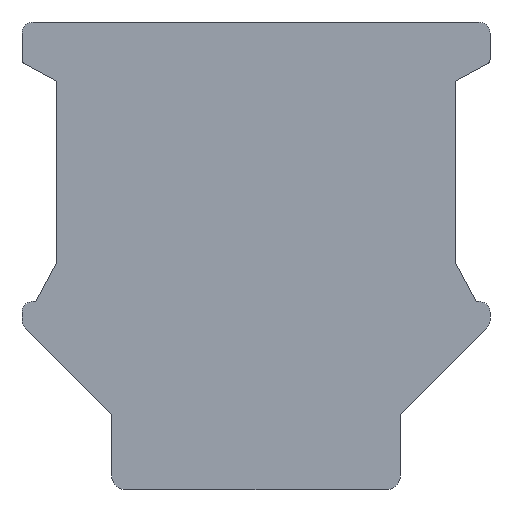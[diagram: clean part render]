
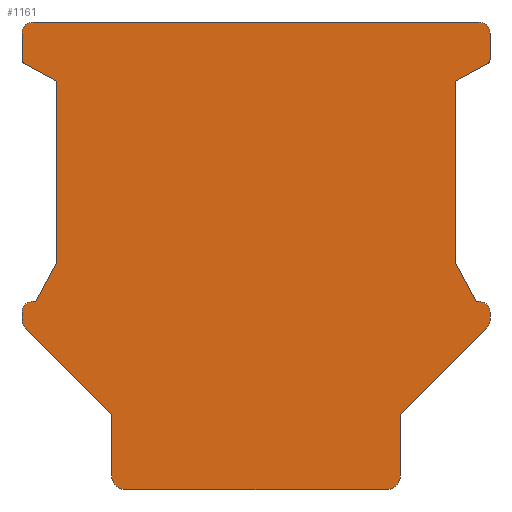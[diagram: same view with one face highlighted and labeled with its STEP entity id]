
A CAD part, left-side view. The second image highlights one B-rep face of the part: STEP entity #1161.
In plain terms, the highlighted planar face has unit normal (-1, 0, 0).
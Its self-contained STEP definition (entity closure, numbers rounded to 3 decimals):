
#199=CARTESIAN_POINT('',(0.,20.25,-1.));
#200=DIRECTION('',(-1.,0.,0.));
#201=DIRECTION('',(0.,0.,1.));
#202=AXIS2_PLACEMENT_3D('',#199,#200,#201);
#204=DIRECTION('',(0.,1.,0.));
#205=VECTOR('',#204,40.5);
#206=CARTESIAN_POINT('',(0.,-20.25,0.));
#207=LINE('',#206,#205);
#208=CARTESIAN_POINT('',(0.,-20.25,-1.));
#209=DIRECTION('',(-1.,0.,0.));
#210=DIRECTION('',(0.,-1.,0.));
#211=AXIS2_PLACEMENT_3D('',#208,#209,#210);
#213=DIRECTION('',(0.,0.,1.));
#214=VECTOR('',#213,2.402);
#215=CARTESIAN_POINT('',(0.,-21.25,-3.402));
#216=LINE('',#215,#214);
#217=CARTESIAN_POINT('',(0.,-20.85,-3.402));
#218=DIRECTION('',(-1.,0.,0.));
#219=DIRECTION('',(0.,-0.477,-0.879));
#220=AXIS2_PLACEMENT_3D('',#217,#218,#219);
#222=DIRECTION('',(0.,-0.879,0.477));
#223=VECTOR('',#222,3.346);
#224=CARTESIAN_POINT('',(0.,-18.1,-5.35));
#225=LINE('',#224,#223);
#226=DIRECTION('',(0.,0.,1.));
#227=VECTOR('',#226,16.45);
#228=CARTESIAN_POINT('',(0.,-18.1,-21.8));
#229=LINE('',#228,#227);
#230=DIRECTION('',(0.,0.472,0.882));
#231=VECTOR('',#230,4.026);
#232=CARTESIAN_POINT('',(0.,-20.,-25.35));
#233=LINE('',#232,#231);
#234=DIRECTION('',(0.,1.,0.));
#235=VECTOR('',#234,0.25);
#236=CARTESIAN_POINT('',(0.,-20.25,-25.35));
#237=LINE('',#236,#235);
#238=CARTESIAN_POINT('',(0.,-20.25,-26.35));
#239=DIRECTION('',(-1.,0.,0.));
#240=DIRECTION('',(0.,-1.,0.));
#241=AXIS2_PLACEMENT_3D('',#238,#239,#240);
#243=DIRECTION('',(0.,0.,1.));
#244=VECTOR('',#243,0.716);
#245=CARTESIAN_POINT('',(0.,-21.25,-27.066));
#246=LINE('',#245,#244);
#247=CARTESIAN_POINT('',(0.,-20.25,-27.066));
#248=DIRECTION('',(-1.,0.,0.));
#249=DIRECTION('',(0.,-0.707,-0.707));
#250=AXIS2_PLACEMENT_3D('',#247,#248,#249);
#252=DIRECTION('',(0.,-0.707,0.707));
#253=VECTOR('',#252,11.112);
#254=CARTESIAN_POINT('',(0.,-13.1,-35.63));
#255=LINE('',#254,#253);
#256=DIRECTION('',(0.,0.,1.));
#257=VECTOR('',#256,5.57);
#258=CARTESIAN_POINT('',(0.,-13.1,-41.2));
#259=LINE('',#258,#257);
#260=CARTESIAN_POINT('',(0.,-11.85,-41.2));
#261=DIRECTION('',(-1.,0.,0.));
#262=DIRECTION('',(0.,0.,-1.));
#263=AXIS2_PLACEMENT_3D('',#260,#261,#262);
#265=DIRECTION('',(0.,-1.,0.));
#266=VECTOR('',#265,23.7);
#267=CARTESIAN_POINT('',(0.,11.85,-42.45));
#268=LINE('',#267,#266);
#269=CARTESIAN_POINT('',(0.,11.85,-41.2));
#270=DIRECTION('',(-1.,0.,0.));
#271=DIRECTION('',(0.,1.,0.));
#272=AXIS2_PLACEMENT_3D('',#269,#270,#271);
#274=DIRECTION('',(0.,0.,-1.));
#275=VECTOR('',#274,5.57);
#276=CARTESIAN_POINT('',(0.,13.1,-35.63));
#277=LINE('',#276,#275);
#278=DIRECTION('',(0.,-0.707,-0.707));
#279=VECTOR('',#278,11.112);
#280=CARTESIAN_POINT('',(0.,20.957,-27.773));
#281=LINE('',#280,#279);
#282=CARTESIAN_POINT('',(0.,20.25,-27.066));
#283=DIRECTION('',(-1.,0.,0.));
#284=DIRECTION('',(0.,1.,0.));
#285=AXIS2_PLACEMENT_3D('',#282,#283,#284);
#287=DIRECTION('',(0.,0.,-1.));
#288=VECTOR('',#287,0.716);
#289=CARTESIAN_POINT('',(0.,21.25,-26.35));
#290=LINE('',#289,#288);
#291=CARTESIAN_POINT('',(0.,20.25,-26.35));
#292=DIRECTION('',(-1.,0.,0.));
#293=DIRECTION('',(0.,0.,1.));
#294=AXIS2_PLACEMENT_3D('',#291,#292,#293);
#296=DIRECTION('',(0.,1.,0.));
#297=VECTOR('',#296,0.25);
#298=CARTESIAN_POINT('',(0.,20.,-25.35));
#299=LINE('',#298,#297);
#300=DIRECTION('',(0.,0.472,-0.882));
#301=VECTOR('',#300,4.026);
#302=CARTESIAN_POINT('',(0.,18.1,-21.8));
#303=LINE('',#302,#301);
#304=DIRECTION('',(0.,0.,-1.));
#305=VECTOR('',#304,16.45);
#306=CARTESIAN_POINT('',(0.,18.1,-5.35));
#307=LINE('',#306,#305);
#308=DIRECTION('',(0.,-0.879,-0.477));
#309=VECTOR('',#308,3.346);
#310=CARTESIAN_POINT('',(0.,21.041,-3.754));
#311=LINE('',#310,#309);
#312=CARTESIAN_POINT('',(0.,20.85,-3.402));
#313=DIRECTION('',(-1.,0.,0.));
#314=DIRECTION('',(0.,1.,0.));
#315=AXIS2_PLACEMENT_3D('',#312,#313,#314);
#317=DIRECTION('',(0.,0.,-1.));
#318=VECTOR('',#317,2.402);
#319=CARTESIAN_POINT('',(0.,21.25,-1.));
#320=LINE('',#319,#318);
#781=CARTESIAN_POINT('',(0.,-21.041,-3.754));
#782=CARTESIAN_POINT('',(0.,-21.25,-3.402));
#783=VERTEX_POINT('',#781);
#784=VERTEX_POINT('',#782);
#805=CARTESIAN_POINT('',(0.,-21.25,-27.066));
#806=CARTESIAN_POINT('',(0.,-21.25,-26.35));
#807=VERTEX_POINT('',#805);
#808=VERTEX_POINT('',#806);
#821=CARTESIAN_POINT('',(0.,21.25,-26.35));
#822=VERTEX_POINT('',#821);
#833=CARTESIAN_POINT('',(0.,-20.25,-25.35));
#834=VERTEX_POINT('',#833);
#835=CARTESIAN_POINT('',(0.,21.25,-3.402));
#836=VERTEX_POINT('',#835);
#837=CARTESIAN_POINT('',(0.,21.041,-3.754));
#838=VERTEX_POINT('',#837);
#843=CARTESIAN_POINT('',(0.,20.25,-25.35));
#845=VERTEX_POINT('',#843);
#851=CARTESIAN_POINT('',(0.,20.,-25.35));
#852=VERTEX_POINT('',#851);
#853=CARTESIAN_POINT('',(0.,-20.,-25.35));
#854=VERTEX_POINT('',#853);
#865=CARTESIAN_POINT('',(0.,21.25,-27.066));
#866=VERTEX_POINT('',#865);
#867=CARTESIAN_POINT('',(0.,-21.25,-1.));
#868=CARTESIAN_POINT('',(0.,-20.25,0.));
#869=VERTEX_POINT('',#867);
#870=VERTEX_POINT('',#868);
#879=CARTESIAN_POINT('',(0.,-18.1,-21.8));
#880=VERTEX_POINT('',#879);
#881=CARTESIAN_POINT('',(0.,20.957,-27.773));
#882=VERTEX_POINT('',#881);
#883=CARTESIAN_POINT('',(0.,13.1,-35.63));
#884=VERTEX_POINT('',#883);
#885=CARTESIAN_POINT('',(0.,-11.85,-42.45));
#886=VERTEX_POINT('',#885);
#887=CARTESIAN_POINT('',(0.,13.1,-41.2));
#888=CARTESIAN_POINT('',(0.,11.85,-42.45));
#889=VERTEX_POINT('',#887);
#890=VERTEX_POINT('',#888);
#891=CARTESIAN_POINT('',(0.,-18.1,-5.35));
#892=VERTEX_POINT('',#891);
#893=CARTESIAN_POINT('',(0.,-13.1,-35.63));
#894=VERTEX_POINT('',#893);
#895=CARTESIAN_POINT('',(0.,-20.957,-27.773));
#896=VERTEX_POINT('',#895);
#897=CARTESIAN_POINT('',(0.,18.1,-5.35));
#898=CARTESIAN_POINT('',(0.,18.1,-21.8));
#899=VERTEX_POINT('',#897);
#900=VERTEX_POINT('',#898);
#901=CARTESIAN_POINT('',(0.,-13.1,-41.2));
#902=VERTEX_POINT('',#901);
#917=CARTESIAN_POINT('',(0.,20.25,0.));
#918=VERTEX_POINT('',#917);
#919=CARTESIAN_POINT('',(0.,21.25,-1.));
#920=VERTEX_POINT('',#919);
#1100=CARTESIAN_POINT('',(0.,0.,0.));
#1101=DIRECTION('',(1.,0.,0.));
#1102=DIRECTION('',(0.,0.,-1.));
#1103=AXIS2_PLACEMENT_3D('',#1100,#1101,#1102);
#1104=PLANE('',#1103);
#1106=ORIENTED_EDGE('',*,*,#1105,.F.);
#1108=ORIENTED_EDGE('',*,*,#1107,.F.);
#1110=ORIENTED_EDGE('',*,*,#1109,.F.);
#1112=ORIENTED_EDGE('',*,*,#1111,.F.);
#1114=ORIENTED_EDGE('',*,*,#1113,.F.);
#1116=ORIENTED_EDGE('',*,*,#1115,.F.);
#1118=ORIENTED_EDGE('',*,*,#1117,.F.);
#1120=ORIENTED_EDGE('',*,*,#1119,.F.);
#1122=ORIENTED_EDGE('',*,*,#1121,.F.);
#1124=ORIENTED_EDGE('',*,*,#1123,.F.);
#1126=ORIENTED_EDGE('',*,*,#1125,.F.);
#1128=ORIENTED_EDGE('',*,*,#1127,.F.);
#1130=ORIENTED_EDGE('',*,*,#1129,.F.);
#1131=ORIENTED_EDGE('',*,*,#1091,.F.);
#1132=ORIENTED_EDGE('',*,*,#1081,.F.);
#1134=ORIENTED_EDGE('',*,*,#1133,.F.);
#1136=ORIENTED_EDGE('',*,*,#1135,.F.);
#1138=ORIENTED_EDGE('',*,*,#1137,.F.);
#1140=ORIENTED_EDGE('',*,*,#1139,.F.);
#1142=ORIENTED_EDGE('',*,*,#1141,.F.);
#1144=ORIENTED_EDGE('',*,*,#1143,.F.);
#1146=ORIENTED_EDGE('',*,*,#1145,.F.);
#1148=ORIENTED_EDGE('',*,*,#1147,.F.);
#1150=ORIENTED_EDGE('',*,*,#1149,.F.);
#1152=ORIENTED_EDGE('',*,*,#1151,.F.);
#1154=ORIENTED_EDGE('',*,*,#1153,.F.);
#1156=ORIENTED_EDGE('',*,*,#1155,.F.);
#1158=ORIENTED_EDGE('',*,*,#1157,.F.);
#1159=EDGE_LOOP('',(#1106,#1108,#1110,#1112,#1114,#1116,#1118,#1120,#1122,#1124,
#1126,#1128,#1130,#1131,#1132,#1134,#1136,#1138,#1140,#1142,#1144,#1146,#1148,
#1150,#1152,#1154,#1156,#1158));
#1160=FACE_OUTER_BOUND('',#1159,.F.);
#1161=ADVANCED_FACE('',(#1160),#1104,.F.);
#203=CIRCLE('',#202,1.);
#212=CIRCLE('',#211,1.);
#221=CIRCLE('',#220,0.4);
#242=CIRCLE('',#241,1.);
#251=CIRCLE('',#250,1.);
#264=CIRCLE('',#263,1.25);
#273=CIRCLE('',#272,1.25);
#286=CIRCLE('',#285,1.);
#295=CIRCLE('',#294,1.);
#316=CIRCLE('',#315,0.4);
#1081=EDGE_CURVE('',#886,#902,#264,.T.);
#1091=EDGE_CURVE('',#902,#894,#259,.T.);
#1105=EDGE_CURVE('',#918,#920,#203,.T.);
#1107=EDGE_CURVE('',#870,#918,#207,.T.);
#1109=EDGE_CURVE('',#869,#870,#212,.T.);
#1111=EDGE_CURVE('',#784,#869,#216,.T.);
#1113=EDGE_CURVE('',#783,#784,#221,.T.);
#1115=EDGE_CURVE('',#892,#783,#225,.T.);
#1117=EDGE_CURVE('',#880,#892,#229,.T.);
#1119=EDGE_CURVE('',#854,#880,#233,.T.);
#1121=EDGE_CURVE('',#834,#854,#237,.T.);
#1123=EDGE_CURVE('',#808,#834,#242,.T.);
#1125=EDGE_CURVE('',#807,#808,#246,.T.);
#1127=EDGE_CURVE('',#896,#807,#251,.T.);
#1129=EDGE_CURVE('',#894,#896,#255,.T.);
#1133=EDGE_CURVE('',#890,#886,#268,.T.);
#1135=EDGE_CURVE('',#889,#890,#273,.T.);
#1137=EDGE_CURVE('',#884,#889,#277,.T.);
#1139=EDGE_CURVE('',#882,#884,#281,.T.);
#1141=EDGE_CURVE('',#866,#882,#286,.T.);
#1143=EDGE_CURVE('',#822,#866,#290,.T.);
#1145=EDGE_CURVE('',#845,#822,#295,.T.);
#1147=EDGE_CURVE('',#852,#845,#299,.T.);
#1149=EDGE_CURVE('',#900,#852,#303,.T.);
#1151=EDGE_CURVE('',#899,#900,#307,.T.);
#1153=EDGE_CURVE('',#838,#899,#311,.T.);
#1155=EDGE_CURVE('',#836,#838,#316,.T.);
#1157=EDGE_CURVE('',#920,#836,#320,.T.);
